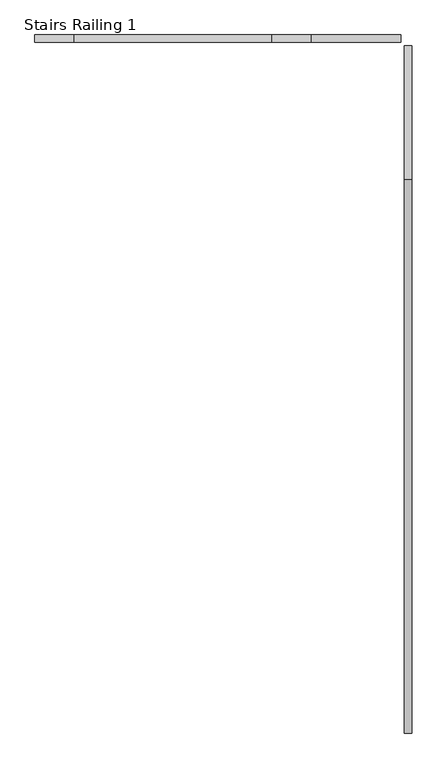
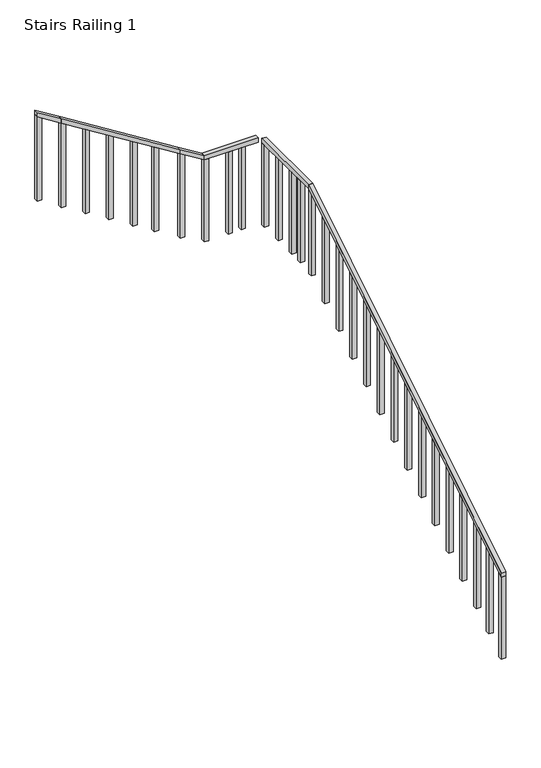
"""IFC4 building model written with IfcOpenShell, lengths in millimetres: railing geometry, Stairs Railing 1."""

from ifc_helpers import new_model, si_unit, frame, origin, place, context, project, spatial, polyline, outline, extrude, source, transform, mapped, element, save


def stairs_railing_1_c8549f34(model_context):
    return source(origin(), model_context, "Body", "SweptSolid", [
        extrude(outline(polyline([(-5629.0521901, 3679.3714286), (-5629.0521901, 3628.5714286), (-9540.6521901, 1190.1714286), (-9540.6521901, 1240.9714286), (-5629.0521901, 3679.3714286)])), frame((25346.0157496, 0.0, 0.0), z_axis=(1.0, 0.0, 0.0), x_axis=(0.0, 1.0, 0.0)), (0.0, 0.0, 1.0), 50.8),
        extrude(outline(polyline([(-9489.8521901, 1221.838961), (-9489.8521901, 174.1714286), (-9540.6521901, 174.1714286), (-9540.6521901, 1190.1714286), (-9489.8521901, 1221.838961)])), frame((25346.0157496, 0.0, 0.0), z_axis=(1.0, 0.0, 0.0), x_axis=(0.0, 1.0, 0.0)), (0.0, 0.0, 1.0), 50.8),
        extrude(outline(polyline([(-9235.8521901, 1380.1766234), (-9235.8521901, 332.5090909), (-9286.6521901, 332.5090909), (-9286.6521901, 1348.5090909), (-9235.8521901, 1380.1766234)])), frame((25346.0157496, 0.0, 0.0), z_axis=(1.0, 0.0, 0.0), x_axis=(0.0, 1.0, 0.0)), (0.0, 0.0, 1.0), 50.8),
        extrude(outline(polyline([(-8981.8521901, 1538.5142857), (-8981.8521901, 490.8467532), (-9032.6521901, 490.8467532), (-9032.6521901, 1506.8467532), (-8981.8521901, 1538.5142857)])), frame((25346.0157496, 0.0, 0.0), z_axis=(1.0, 0.0, 0.0), x_axis=(0.0, 1.0, 0.0)), (0.0, 0.0, 1.0), 50.8),
        extrude(outline(polyline([(-8702.4521901, 1712.6857143), (-8702.4521901, 665.0181818), (-8753.2521901, 665.0181818), (-8753.2521901, 1681.0181818), (-8702.4521901, 1712.6857143)])), frame((25346.0157496, 0.0, 0.0), z_axis=(1.0, 0.0, 0.0), x_axis=(0.0, 1.0, 0.0)), (0.0, 0.0, 1.0), 50.8),
        extrude(outline(polyline([(-8423.0521901, 1886.8571429), (-8423.0521901, 839.1896104), (-8473.8521901, 839.1896104), (-8473.8521901, 1855.1896104), (-8423.0521901, 1886.8571429)])), frame((25346.0157496, 0.0, 0.0), z_axis=(1.0, 0.0, 0.0), x_axis=(0.0, 1.0, 0.0)), (0.0, 0.0, 1.0), 50.8),
        extrude(outline(polyline([(-8143.6521901, 2061.0285714), (-8143.6521901, 1013.361039), (-8194.4521901, 1013.361039), (-8194.4521901, 2029.361039), (-8143.6521901, 2061.0285714)])), frame((25346.0157496, 0.0, 0.0), z_axis=(1.0, 0.0, 0.0), x_axis=(0.0, 1.0, 0.0)), (0.0, 0.0, 1.0), 50.8),
        extrude(outline(polyline([(-7864.2521901, 2235.2), (-7864.2521901, 1187.5324675), (-7915.0521901, 1187.5324675), (-7915.0521901, 2203.5324675), (-7864.2521901, 2235.2)])), frame((25346.0157496, 0.0, 0.0), z_axis=(1.0, 0.0, 0.0), x_axis=(0.0, 1.0, 0.0)), (0.0, 0.0, 1.0), 50.8),
        extrude(outline(polyline([(-7584.8521901, 2409.3714286), (-7584.8521901, 1361.7038961), (-7635.6521901, 1361.7038961), (-7635.6521901, 2377.7038961), (-7584.8521901, 2409.3714286)])), frame((25346.0157496, 0.0, 0.0), z_axis=(1.0, 0.0, 0.0), x_axis=(0.0, 1.0, 0.0)), (0.0, 0.0, 1.0), 50.8),
        extrude(outline(polyline([(-7305.4521901, 2583.5428571), (-7305.4521901, 1535.8753247), (-7356.2521901, 1535.8753247), (-7356.2521901, 2551.8753247), (-7305.4521901, 2583.5428571)])), frame((25346.0157496, 0.0, 0.0), z_axis=(1.0, 0.0, 0.0), x_axis=(0.0, 1.0, 0.0)), (0.0, 0.0, 1.0), 50.8),
        extrude(outline(polyline([(-7026.0521901, 2757.7142857), (-7026.0521901, 1710.0467532), (-7076.8521901, 1710.0467532), (-7076.8521901, 2726.0467532), (-7026.0521901, 2757.7142857)])), frame((25346.0157496, 0.0, 0.0), z_axis=(1.0, 0.0, 0.0), x_axis=(0.0, 1.0, 0.0)), (0.0, 0.0, 1.0), 50.8),
        extrude(outline(polyline([(-6746.6521901, 2931.8857143), (-6746.6521901, 1884.2181818), (-6797.4521901, 1884.2181818), (-6797.4521901, 2900.2181818), (-6746.6521901, 2931.8857143)])), frame((25346.0157496, 0.0, 0.0), z_axis=(1.0, 0.0, 0.0), x_axis=(0.0, 1.0, 0.0)), (0.0, 0.0, 1.0), 50.8),
        extrude(outline(polyline([(-6467.2521901, 3106.0571429), (-6467.2521901, 2058.3896104), (-6518.0521901, 2058.3896104), (-6518.0521901, 3074.3896104), (-6467.2521901, 3106.0571429)])), frame((25346.0157496, 0.0, 0.0), z_axis=(1.0, 0.0, 0.0), x_axis=(0.0, 1.0, 0.0)), (0.0, 0.0, 1.0), 50.8),
        extrude(outline(polyline([(-6187.8521901, 3280.2285714), (-6187.8521901, 2232.561039), (-6238.6521901, 2232.561039), (-6238.6521901, 3248.561039), (-6187.8521901, 3280.2285714)])), frame((25346.0157496, 0.0, 0.0), z_axis=(1.0, 0.0, 0.0), x_axis=(0.0, 1.0, 0.0)), (0.0, 0.0, 1.0), 50.8),
        extrude(outline(polyline([(-5908.4521901, 3454.4), (-5908.4521901, 2406.7324675), (-5959.2521901, 2406.7324675), (-5959.2521901, 3422.7324675), (-5908.4521901, 3454.4)])), frame((25346.0157496, 0.0, 0.0), z_axis=(1.0, 0.0, 0.0), x_axis=(0.0, 1.0, 0.0)), (0.0, 0.0, 1.0), 50.8),
        extrude(outline(polyline([(-5629.0521901, 3628.5714286), (-5629.0521901, 2580.9038961), (-5679.8521901, 2580.9038961), (-5679.8521901, 3596.9038961), (-5629.0521901, 3628.5714286)])), frame((25346.0157496, 0.0, 0.0), z_axis=(1.0, 0.0, 0.0), x_axis=(0.0, 1.0, 0.0)), (0.0, 0.0, 1.0), 50.8),
        extrude(outline(polyline([(25346.0157496, -4681.0900732), (25396.8157496, -4681.0900732), (25396.8157496, -5629.0521901), (25346.0157496, -5629.0521901), (25346.0157496, -4681.0900732)])), frame((0.0, 0.0, 3628.5714286), z_axis=(0.0, 0.0, 1.0), x_axis=(1.0, 0.0, 0.0)), (0.0, 0.0, 1.0), 50.8),
        extrude(outline(polyline([(25346.0157496, -5459.8711317), (25346.0157496, -5409.0711317), (25396.8157496, -5409.0711317), (25396.8157496, -5459.8711317), (25346.0157496, -5459.8711317)])), frame((0.0, 0.0, 2612.5714286), z_axis=(0.0, 0.0, 1.0), x_axis=(1.0, 0.0, 0.0)), (0.0, 0.0, 1.0), 1016.0),
        extrude(outline(polyline([(25346.0157496, -5290.6900732), (25346.0157496, -5239.8900732), (25396.8157496, -5239.8900732), (25396.8157496, -5290.6900732), (25346.0157496, -5290.6900732)])), frame((0.0, 0.0, 2612.5714286), z_axis=(0.0, 0.0, 1.0), x_axis=(1.0, 0.0, 0.0)), (0.0, 0.0, 1.0), 1016.0),
        extrude(outline(polyline([(25346.0157496, -5011.2900732), (25346.0157496, -4960.4900732), (25396.8157496, -4960.4900732), (25396.8157496, -5011.2900732), (25346.0157496, -5011.2900732)])), frame((0.0, 0.0, 2612.5714286), z_axis=(0.0, 0.0, 1.0), x_axis=(1.0, 0.0, 0.0)), (0.0, 0.0, 1.0), 1016.0),
        extrude(outline(polyline([(25346.0157496, -4731.8900732), (25346.0157496, -4681.0900732), (25396.8157496, -4681.0900732), (25396.8157496, -4731.8900732), (25346.0157496, -4731.8900732)])), frame((0.0, 0.0, 2612.5714286), z_axis=(0.0, 0.0, 1.0), x_axis=(1.0, 0.0, 0.0)), (0.0, 0.0, 1.0), 1016.0),
        extrude(outline(polyline([(24685.6157496, -4655.6900732), (24685.6157496, -4604.8900732), (25320.6157496, -4604.8900732), (25320.6157496, -4655.6900732), (24685.6157496, -4655.6900732)])), frame((0.0, 0.0, 3628.5714286), z_axis=(0.0, 0.0, 1.0), x_axis=(1.0, 0.0, 0.0)), (0.0, 0.0, 1.0), 50.8),
        extrude(outline(polyline([(25168.2157496, -4655.6900732), (25117.4157496, -4655.6900732), (25117.4157496, -4604.8900732), (25168.2157496, -4604.8900732), (25168.2157496, -4655.6900732)])), frame((0.0, 0.0, 2612.5714286), z_axis=(0.0, 0.0, 1.0), x_axis=(1.0, 0.0, 0.0)), (0.0, 0.0, 1.0), 1016.0),
        extrude(outline(polyline([(25015.8157496, -4655.6900732), (24965.0157496, -4655.6900732), (24965.0157496, -4604.8900732), (25015.8157496, -4604.8900732), (25015.8157496, -4655.6900732)])), frame((0.0, 0.0, 2612.5714286), z_axis=(0.0, 0.0, 1.0), x_axis=(1.0, 0.0, 0.0)), (0.0, 0.0, 1.0), 1016.0),
        extrude(outline(polyline([(24736.4157496, -4655.6900732), (24685.6157496, -4655.6900732), (24685.6157496, -4604.8900732), (24736.4157496, -4604.8900732), (24736.4157496, -4655.6900732)])), frame((0.0, 0.0, 2612.5714286), z_axis=(0.0, 0.0, 1.0), x_axis=(1.0, 0.0, 0.0)), (0.0, 0.0, 1.0), 1016.0),
        extrude(outline(polyline([(3853.5428571, 24406.2157496), (3802.7428571, 24406.2157496), (3628.5714286, 24685.6157496), (3679.3714286, 24685.6157496), (3853.5428571, 24406.2157496)])), frame((0.0, -4655.6900732, 0.0), z_axis=(0.0, 1.0, 0.0), x_axis=(0.0, 0.0, 1.0)), (0.0, 0.0, 1.0), 50.8),
        extrude(outline(polyline([(3802.7428571, 24406.2157496), (2755.0753247, 24406.2157496), (2755.0753247, 24457.0157496), (3771.0753247, 24457.0157496), (3802.7428571, 24406.2157496)])), frame((0.0, -4655.6900732, 0.0), z_axis=(0.0, 1.0, 0.0), x_axis=(0.0, 0.0, 1.0)), (0.0, 0.0, 1.0), 50.8),
        extrude(outline(polyline([(4724.4, 23009.2157496), (4673.6, 23009.2157496), (3802.7428571, 24406.2157496), (3853.5428571, 24406.2157496), (4724.4, 23009.2157496)])), frame((0.0, -4655.6900732, 0.0), z_axis=(0.0, 1.0, 0.0), x_axis=(0.0, 0.0, 1.0)), (0.0, 0.0, 1.0), 50.8),
        extrude(outline(polyline([(3992.7480519, 24101.4157496), (2945.0805195, 24101.4157496), (2945.0805195, 24152.2157496), (3961.0805195, 24152.2157496), (3992.7480519, 24101.4157496)])), frame((0.0, -4655.6900732, 0.0), z_axis=(0.0, 1.0, 0.0), x_axis=(0.0, 0.0, 1.0)), (0.0, 0.0, 1.0), 50.8),
        extrude(outline(polyline([(4151.0857143, 23847.4157496), (3103.4181818, 23847.4157496), (3103.4181818, 23898.2157496), (4119.4181818, 23898.2157496), (4151.0857143, 23847.4157496)])), frame((0.0, -4655.6900732, 0.0), z_axis=(0.0, 1.0, 0.0), x_axis=(0.0, 0.0, 1.0)), (0.0, 0.0, 1.0), 50.8),
        extrude(outline(polyline([(4325.2571429, 23568.0157496), (3277.5896104, 23568.0157496), (3277.5896104, 23618.8157496), (4293.5896104, 23618.8157496), (4325.2571429, 23568.0157496)])), frame((0.0, -4655.6900732, 0.0), z_axis=(0.0, 1.0, 0.0), x_axis=(0.0, 0.0, 1.0)), (0.0, 0.0, 1.0), 50.8),
        extrude(outline(polyline([(4499.4285714, 23288.6157496), (3451.761039, 23288.6157496), (3451.761039, 23339.4157496), (4467.761039, 23339.4157496), (4499.4285714, 23288.6157496)])), frame((0.0, -4655.6900732, 0.0), z_axis=(0.0, 1.0, 0.0), x_axis=(0.0, 0.0, 1.0)), (0.0, 0.0, 1.0), 50.8),
        extrude(outline(polyline([(4673.6, 23009.2157496), (3625.9324675, 23009.2157496), (3625.9324675, 23060.0157496), (4641.9324675, 23060.0157496), (4673.6, 23009.2157496)])), frame((0.0, -4655.6900732, 0.0), z_axis=(0.0, 1.0, 0.0), x_axis=(0.0, 0.0, 1.0)), (0.0, 0.0, 1.0), 50.8),
        extrude(outline(polyline([(4898.5714286, 22729.8157496), (4847.7714286, 22729.8157496), (4673.6, 23009.2157496), (4724.4, 23009.2157496), (4898.5714286, 22729.8157496)])), frame((0.0, -4655.6900732, 0.0), z_axis=(0.0, 1.0, 0.0), x_axis=(0.0, 0.0, 1.0)), (0.0, 0.0, 1.0), 50.8),
        extrude(outline(polyline([(4847.7714286, 22729.8157496), (3800.1038961, 22729.8157496), (3800.1038961, 22780.6157496), (4816.1038961, 22780.6157496), (4847.7714286, 22729.8157496)])), frame((0.0, -4655.6900732, 0.0), z_axis=(0.0, 1.0, 0.0), x_axis=(0.0, 0.0, 1.0)), (0.0, 0.0, 1.0), 50.8),
    ])


if __name__ == "__main__":
    model = new_model("IFC4")
    model_context = context("Model", 3, world=origin())
    ifc_project = project(units=[si_unit("LENGTHUNIT", "METRE", prefix="MILLI")], contexts=[model_context])
    site = spatial("IfcSite", under=ifc_project)
    building = spatial("IfcBuilding", under=site)
    placement = place(None, origin())
    stairs_railing_1_shape = stairs_railing_1_c8549f34(model_context)
    element("IfcRailing", 1, ObjectType="Stairs Railing 1", at=placement, inside=building, context=model_context, shape_type="MappedRepresentation", body=[
        mapped(stairs_railing_1_shape, transform((0.0, 0.0, 0.0), x_axis=(1.0, 0.0, 0.0), y_axis=(0.0, 1.0, 0.0), z_axis=(0.0, 0.0, 1.0))),
    ])
    save(model, "model.ifc")
